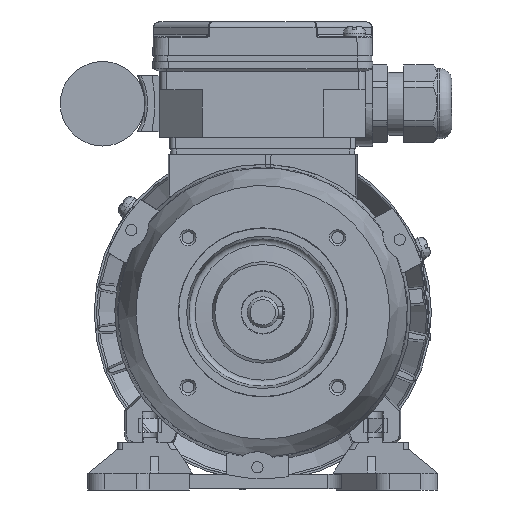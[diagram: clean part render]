
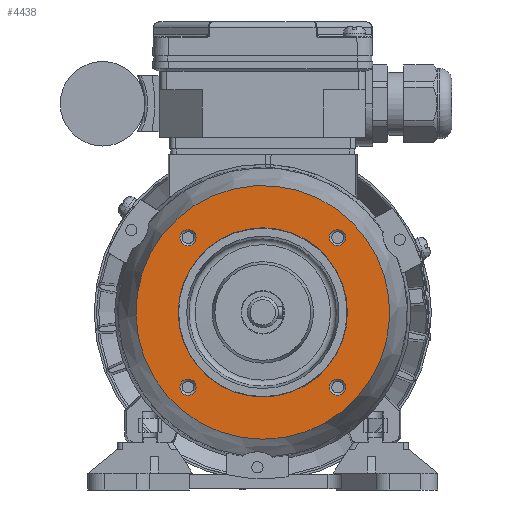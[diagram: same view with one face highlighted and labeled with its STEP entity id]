
A CAD part, left-side view. The second image highlights one B-rep face of the part: STEP entity #4438.
In plain terms, the highlighted planar face has unit normal (-1, 0, 0) as drawn and (0, -1, 0) by its records, which use the part's own axes.
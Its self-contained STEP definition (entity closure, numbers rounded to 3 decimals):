
#4438 = ADVANCED_FACE( '', ( #9301, #9302, #9303, #9304, #9305, #9306 ), #9307, .T. );
#9301 = FACE_BOUND( '', #20990, .T. );
#9302 = FACE_BOUND( '', #20991, .T. );
#9303 = FACE_BOUND( '', #20992, .T. );
#9304 = FACE_BOUND( '', #20993, .T. );
#9305 = FACE_OUTER_BOUND( '', #20994, .T. );
#9306 = FACE_BOUND( '', #20995, .T. );
#9307 = PLANE( '', #20996 );
#20990 = EDGE_LOOP( '', ( #35048 ) );
#20991 = EDGE_LOOP( '', ( #35049 ) );
#20992 = EDGE_LOOP( '', ( #35050 ) );
#20993 = EDGE_LOOP( '', ( #35051 ) );
#20994 = EDGE_LOOP( '', ( #35052 ) );
#20995 = EDGE_LOOP( '', ( #35053 ) );
#20996 = AXIS2_PLACEMENT_3D( '', #35054, #35055, #35056 );
#35048 = ORIENTED_EDGE( '', *, *, #47663, .T. );
#35049 = ORIENTED_EDGE( '', *, *, #44848, .T. );
#35050 = ORIENTED_EDGE( '', *, *, #43361, .T. );
#35051 = ORIENTED_EDGE( '', *, *, #47664, .T. );
#35052 = ORIENTED_EDGE( '', *, *, #47665, .T. );
#35053 = ORIENTED_EDGE( '', *, *, #47666, .F. );
#35054 = CARTESIAN_POINT( '', ( 0., 2.5, 30. ) );
#35055 = DIRECTION( '', ( 0., -1., 0. ) );
#35056 = DIRECTION( '', ( 0., 0., -1. ) );
#43361 = EDGE_CURVE( '', #50888, #50888, #50889, .F. );
#44848 = EDGE_CURVE( '', #53494, #53494, #53495, .F. );
#47663 = EDGE_CURVE( '', #57768, #57768, #57769, .F. );
#47664 = EDGE_CURVE( '', #57770, #57770, #57771, .F. );
#47665 = EDGE_CURVE( '', #57772, #57772, #57773, .T. );
#47666 = EDGE_CURVE( '', #57774, #57774, #57775, .T. );
#50888 = VERTEX_POINT( '', #60854 );
#50889 = CIRCLE( '', #60855, 2.867 );
#53494 = VERTEX_POINT( '', #66662 );
#53495 = CIRCLE( '', #66663, 2.867 );
#57768 = VERTEX_POINT( '', #75808 );
#57769 = CIRCLE( '', #75809, 2.867 );
#57770 = VERTEX_POINT( '', #75810 );
#57771 = CIRCLE( '', #75811, 2.867 );
#57772 = VERTEX_POINT( '', #75812 );
#57773 = CIRCLE( '', #75813, 45. );
#57774 = VERTEX_POINT( '', #75814 );
#57775 = CIRCLE( '', #75815, 30. );
#60854 = CARTESIAN_POINT( '', ( 26.517, 2.5, 23.65 ) );
#60855 = AXIS2_PLACEMENT_3D( '', #81268, #81269, #81270 );
#66662 = CARTESIAN_POINT( '', ( 26.517, 2.5, -29.384 ) );
#66663 = AXIS2_PLACEMENT_3D( '', #83076, #83077, #83078 );
#75808 = CARTESIAN_POINT( '', ( -26.517, 2.5, -29.384 ) );
#75809 = AXIS2_PLACEMENT_3D( '', #86303, #86304, #86305 );
#75810 = CARTESIAN_POINT( '', ( -26.517, 2.5, 23.65 ) );
#75811 = AXIS2_PLACEMENT_3D( '', #86306, #86307, #86308 );
#75812 = CARTESIAN_POINT( '', ( 0., 2.5, -45. ) );
#75813 = AXIS2_PLACEMENT_3D( '', #86309, #86310, #86311 );
#75814 = CARTESIAN_POINT( '', ( 0., 2.5, -30. ) );
#75815 = AXIS2_PLACEMENT_3D( '', #86312, #86313, #86314 );
#81268 = CARTESIAN_POINT( '', ( 26.517, 2.5, 26.517 ) );
#81269 = DIRECTION( '', ( 0., -1., 0. ) );
#81270 = DIRECTION( '', ( 0., 0., -1. ) );
#83076 = CARTESIAN_POINT( '', ( 26.517, 2.5, -26.517 ) );
#83077 = DIRECTION( '', ( 0., -1., 0. ) );
#83078 = DIRECTION( '', ( 0., 0., -1. ) );
#86303 = CARTESIAN_POINT( '', ( -26.517, 2.5, -26.517 ) );
#86304 = DIRECTION( '', ( 0., -1., 0. ) );
#86305 = DIRECTION( '', ( 0., 0., -1. ) );
#86306 = CARTESIAN_POINT( '', ( -26.517, 2.5, 26.517 ) );
#86307 = DIRECTION( '', ( 0., -1., 0. ) );
#86308 = DIRECTION( '', ( 0., 0., -1. ) );
#86309 = CARTESIAN_POINT( '', ( 0., 2.5, 0. ) );
#86310 = DIRECTION( '', ( 0., -1., 0. ) );
#86311 = DIRECTION( '', ( 0., 0., -1. ) );
#86312 = CARTESIAN_POINT( '', ( 0., 2.5, 0. ) );
#86313 = DIRECTION( '', ( 0., -1., 0. ) );
#86314 = DIRECTION( '', ( 0., 0., -1. ) );
